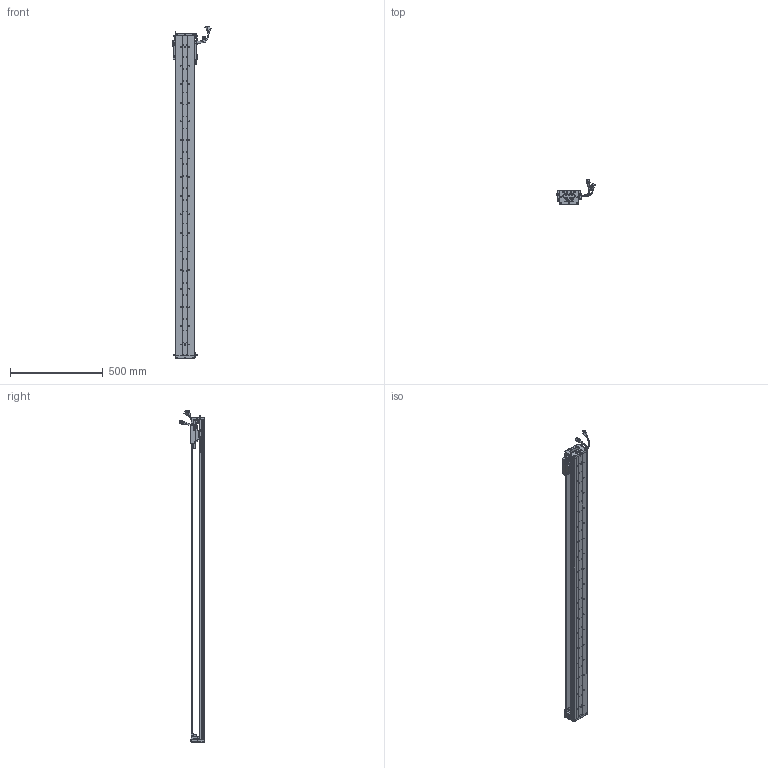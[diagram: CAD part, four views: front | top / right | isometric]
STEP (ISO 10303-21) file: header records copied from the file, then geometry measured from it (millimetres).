
FILE_DESCRIPTION (( 'STEP AP203' ), '1' );
FILE_NAME ('Z1-RY100D-1-L500-B-K.SLDASM_1550.step', '2021-05-17T01:42:05', ( '盈信电脑' ), ( '东莞市道滘镇水果街19号' ), 'SwSTEP 2.0', 'SolidWorks 2016', '' );
FILE_SCHEMA (( 'CONFIG_CONTROL_DESIGN' ));
Length unit declared in the file: millimetre
Products named in the file (36): SCREW-M1.6; COVER; SCREW-M1.6-1; Z-RY100D覜茼んえ; COVER-Part-1; Z1-RY100D-500-倰第菁釱_1550; SCREW-M1.6-3; 080黍杅芛假蚾釱21遴; Z1-RY100D-1-L500-B-K.SLDASM_1550; HOLDER0; HARNESS; LABEL-Part-1; SHIELDPLATE; LABEL; 140蚥薯蝶輸; SCREW-M1.7-1; PSLH080_PSLF2; 100-Z-臏賑輸盄裔(21遴); SCALE-Part-1; 140雄赽晤鎢ん堤盄; HARNESS-Part-1; SCALE; Z-RY100D詩湍狟揤裔; 覜茼ん672; Z1-RY100-L500詩湍90mm遵_1550; Z-100詩湍傷裔啣; Z1-RY100铝滑块（21款）; Z-RY100D詩湍奻揤裔; SEAL-Part-1; PBU_SHEET; SCALE-Part-2; 榋妏寠巭燃_暯_M2_2; HARNESS-Part-2; SEAL; SCREW-M1.6-2; SCREW-M1.7
Assembly tree (44 placements, depth 4):
  Z1-RY100D-1-L500-B-K.SLDASM_1550
    Z1-RY100D-500-倰第菁釱_1550
    Z1-RY100铝滑块（21款）
    PSLH080_PSLF2
      SCALE
        SCALE-Part-1
        SCALE-Part-2
      HARNESS
        HARNESS-Part-1
        HARNESS-Part-2
      LABEL
        LABEL-Part-1
      COVER
        COVER-Part-1
      SEAL
        SEAL-Part-1
      榋妏寠巭燃_暯_M2_2
      SHIELDPLATE
      SCREW-M1.7
      SCREW-M1.7-1
      PBU_SHEET
      SCREW-M1.6
      SCREW-M1.6-1
      SCREW-M1.6-2
      SCREW-M1.6-3
      HOLDER0
    080黍杅芛假蚾釱21遴
    Z-100詩湍傷裔啣  x2
    140蚥薯蝶輸  x2
    覜茼ん672  x4
    Z-RY100D覜茼んえ  x3
    100-Z-臏賑輸盄裔(21遴)
    140雄赽晤鎢ん堤盄
    Z1-RY100-L500詩湍90mm遵_1550
    Z-RY100D詩湍狟揤裔  x2
    Z-RY100D詩湍奻揤裔  x2
Bounding box: 205.83 x 136.11 x 1785.43 mm (x, y, z)
Volume: 3271362.3 mm3; surface area: 1302989.1 mm2
Topology: 39 solids, 39 shells, 2770 faces, 7423 edges, 4732 vertices
Faces by surface type: cylinder 1238, plane 1200, cone 210, torus 69, bspline 53
Entity records: 75019 total; most frequent: CARTESIAN_POINT 15837, DIRECTION 11913, ORIENTED_EDGE 11278, EDGE_CURVE 5639, AXIS2_PLACEMENT_3D 4408, VERTEX_POINT 3640, VECTOR 3097, LINE 3097
